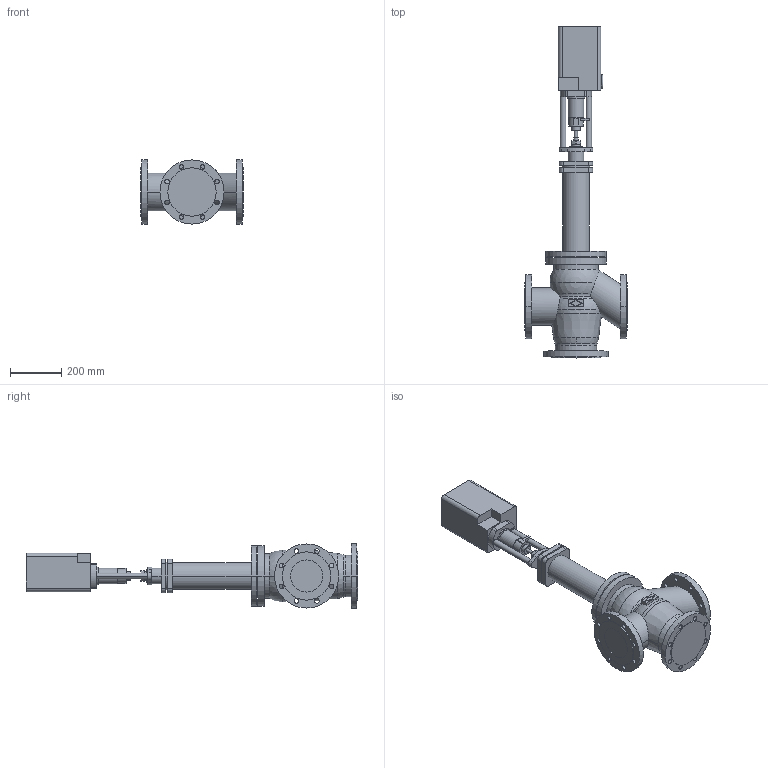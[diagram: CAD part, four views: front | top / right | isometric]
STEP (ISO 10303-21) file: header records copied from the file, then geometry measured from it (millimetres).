
FILE_DESCRIPTION(('OneSpaceDesigner STEP Export'),'2;1');
FILE_NAME('c000000423.stp','2007-01-26T13:15:03',(''),(''),'OneSpace Designer STEP processor for AP214 (Solid Model)','OneSpace Designer 14.00B 27-May-2006 (C) CoCreate Software GmbH','');
FILE_SCHEMA(('AUTOMOTIVE_DESIGN { 1 0 10303 214 1 1 1 1 }'));
Length unit declared in the file: millimetre
Products named in the file (2): 1; 2
Bounding box: 400 x 1293.2 x 250 mm (x, y, z)
Volume: 28484949.2 mm3; surface area: 1160097.3 mm2
Topology: 2 solids, 2 shells, 254 faces, 653 edges, 427 vertices
Faces by surface type: cylinder 134, plane 100, torus 10, sphere 8, cone 2
Entity records: 7247 total; most frequent: CARTESIAN_POINT 1451, ORIENTED_EDGE 1290, DIRECTION 1075, EDGE_CURVE 645, VERTEX_POINT 427, AXIS2_PLACEMENT_3D 388, EDGE_LOOP 334, VECTOR 299
